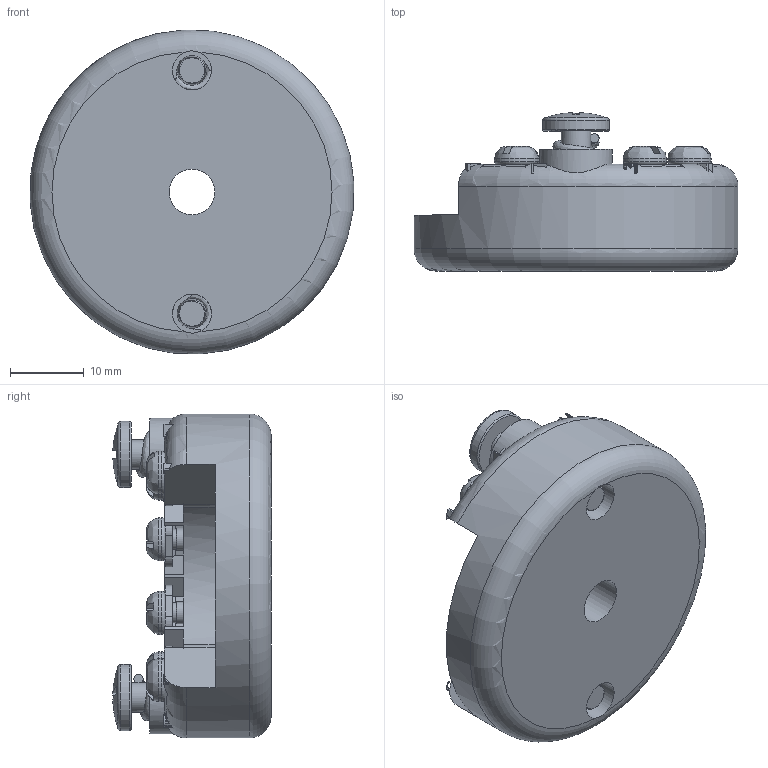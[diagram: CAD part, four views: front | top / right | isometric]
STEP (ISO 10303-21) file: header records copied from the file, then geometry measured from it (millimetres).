
FILE_DESCRIPTION( ( 'Unknown' ), '1' );
FILE_NAME( 'Z:/U_Proces/dokumentation new/Mechanical parts/7000 3D Step filer/7000-/7000304/2202-0001.stp', 'Unknown', ( 'Unknown' ), ( 'Unknown' ), 'PSStep 15.0.49', 'Unknown', ' ' );
FILE_SCHEMA( ( 'AUTOMOTIVE_DESIGN { 1 0 10303 214 1 1 1 1 }' ) );
Length unit declared in the file: millimetre
Products named in the file (1): LODDE_SPYD_3219_213
Bounding box: 43.95 x 21.48 x 43.95 mm (x, y, z)
Volume: 15777 mm3; surface area: 8827 mm2
Topology: 1 solids, 7 shells, 668 faces, 1895 edges, 1260 vertices
Faces by surface type: plane 537, cylinder 88, torus 19, cone 14, bspline 8, sphere 2
Full cylindrical faces by diameter (mm): 2.75 x6, 3 x12, 4 x24, 5.3 x2, 5.88 x6, 6.2 x1, 8.2 x2, 9 x2, 9.8 x2, 44 x1
Entity records: 27845 total; most frequent: CARTESIAN_POINT 6005, ORIENTED_EDGE 3440, DIRECTION 3397, EDGE_CURVE 1720, VERTEX_POINT 1181, AXIS2_PLACEMENT_3D 1179, LINE 1039, VECTOR 1039
